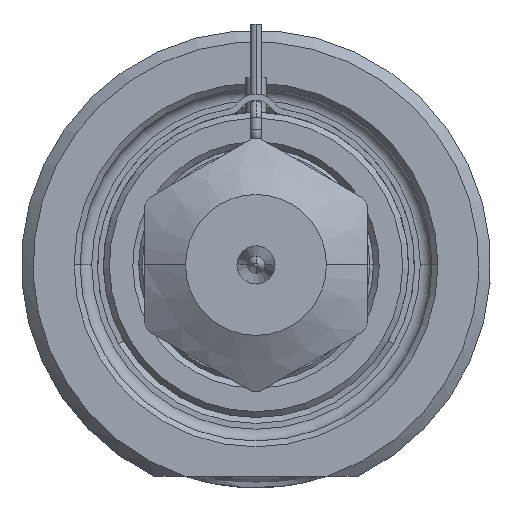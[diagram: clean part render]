
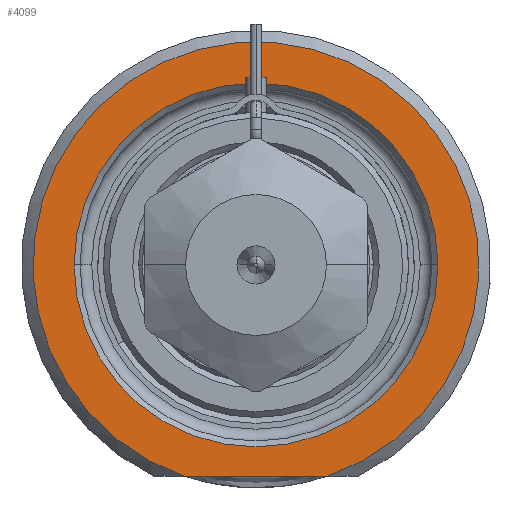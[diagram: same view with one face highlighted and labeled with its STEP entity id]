
A CAD part, front view. The second image highlights one B-rep face of the part: STEP entity #4099.
In plain terms, the highlighted planar face has unit normal (0, -1, 0).
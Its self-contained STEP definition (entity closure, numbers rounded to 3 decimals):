
#1=DIRECTION('',(1.,0.,0.));
#2=VECTOR('',#1,12.166);
#3=CARTESIAN_POINT('',(-6.083,0.,-18.));
#4=LINE('',#3,#2);
#5=CARTESIAN_POINT('',(0.,0.,0.));
#6=DIRECTION('',(0.,1.,0.));
#7=DIRECTION('',(-1.,0.,0.));
#8=AXIS2_PLACEMENT_3D('',#5,#6,#7);
#10=CARTESIAN_POINT('',(0.,0.,0.));
#11=DIRECTION('',(0.,1.,0.));
#12=DIRECTION('',(1.,0.,0.));
#13=AXIS2_PLACEMENT_3D('',#10,#11,#12);
#264=CARTESIAN_POINT('',(0.,0.,0.));
#265=DIRECTION('',(0.,-1.,0.));
#266=DIRECTION('',(0.32,0.,-0.947));
#267=AXIS2_PLACEMENT_3D('',#264,#265,#266);
#3454=CARTESIAN_POINT('',(-15.5,0.,0.));
#3455=CARTESIAN_POINT('',(15.5,0.,0.));
#3456=VERTEX_POINT('',#3454);
#3457=VERTEX_POINT('',#3455);
#3512=CARTESIAN_POINT('',(-6.083,0.,-18.));
#3513=CARTESIAN_POINT('',(6.083,0.,-18.));
#3514=VERTEX_POINT('',#3512);
#3515=VERTEX_POINT('',#3513);
#4082=CARTESIAN_POINT('',(0.,0.,0.));
#4083=DIRECTION('',(0.,-1.,0.));
#4084=DIRECTION('',(1.,0.,0.));
#4085=AXIS2_PLACEMENT_3D('',#4082,#4083,#4084);
#4086=PLANE('',#4085);
#4088=ORIENTED_EDGE('',*,*,#4087,.F.);
#4090=ORIENTED_EDGE('',*,*,#4089,.F.);
#4091=EDGE_LOOP('',(#4088,#4090));
#4092=FACE_OUTER_BOUND('',#4091,.F.);
#4094=ORIENTED_EDGE('',*,*,#4093,.F.);
#4096=ORIENTED_EDGE('',*,*,#4095,.F.);
#4097=EDGE_LOOP('',(#4094,#4096));
#4098=FACE_BOUND('',#4097,.F.);
#4099=ADVANCED_FACE('',(#4092,#4098),#4086,.T.);
#9=CIRCLE('',#8,15.5);
#14=CIRCLE('',#13,15.5);
#268=CIRCLE('',#267,19.);
#4087=EDGE_CURVE('',#3514,#3515,#4,.T.);
#4089=EDGE_CURVE('',#3515,#3514,#268,.T.);
#4093=EDGE_CURVE('',#3456,#3457,#9,.T.);
#4095=EDGE_CURVE('',#3457,#3456,#14,.T.);
